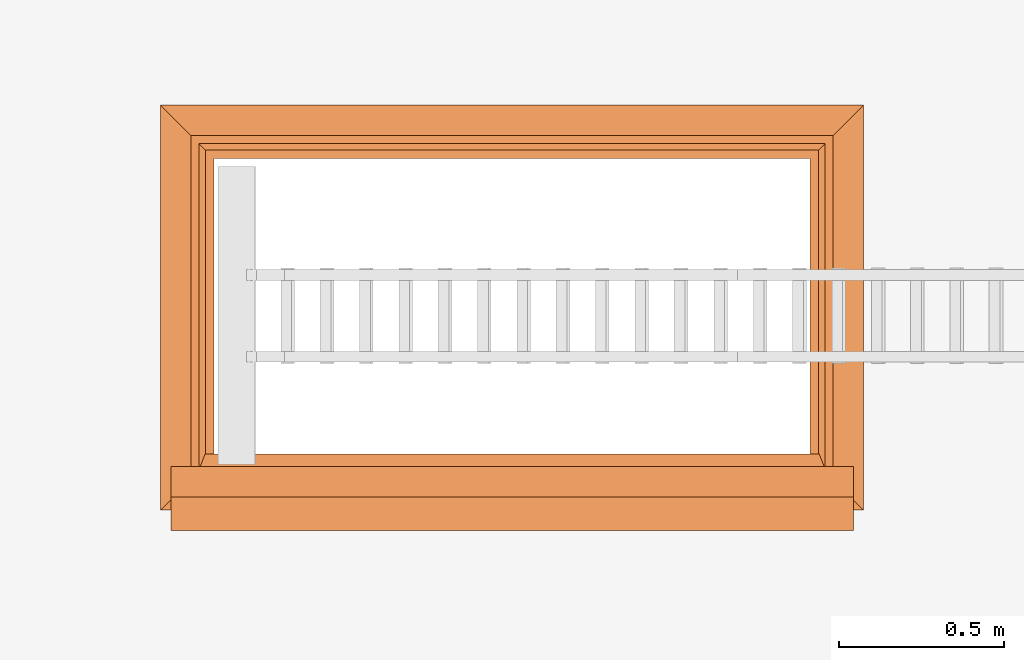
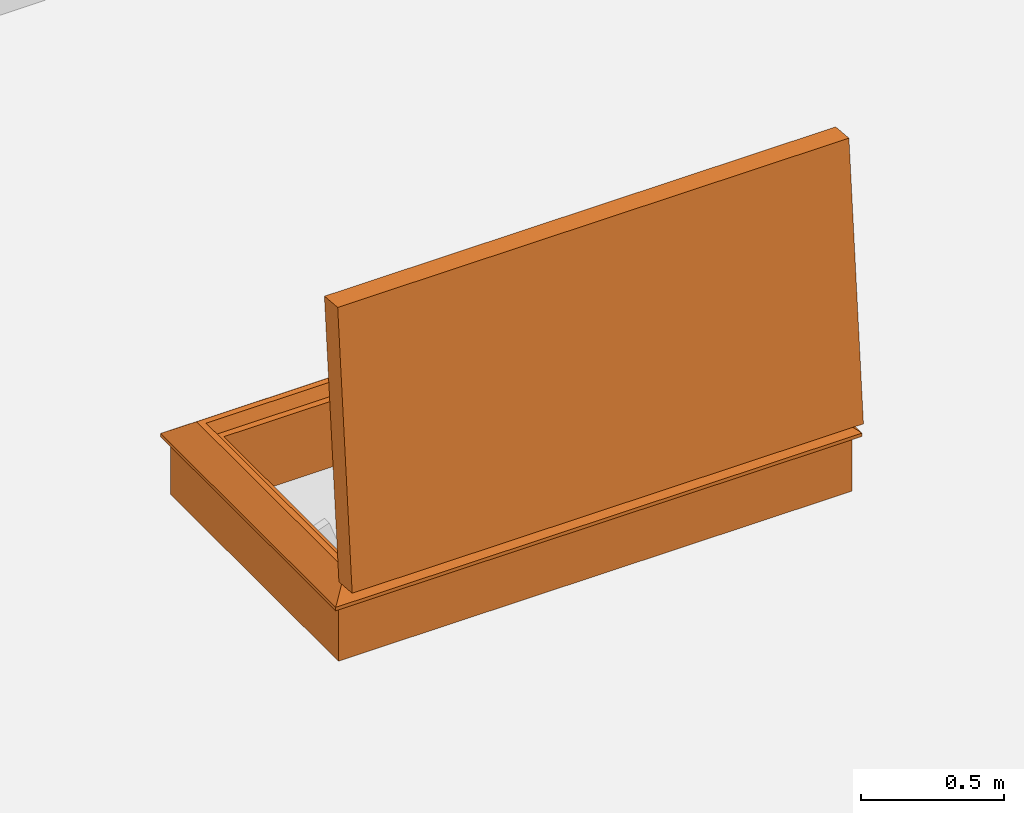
# One storey, part 19 of 28: 1 proxy.
"""IFC2X3 building model written with IfcOpenShell, lengths in millimetres."""

from ifc_helpers import new_model, entity, si_unit, converted_unit, derived_unit, direction, frame, origin, place, context, subcontext, project, spatial, faceted_brep, source, transform, mapped, type_object, type_shapes, element, save


model = new_model("IFC2X3")

# Units and contexts
model_context = context("Model", 3, precision=0.01, world=origin(), true_north=direction((6.12303176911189e-17, 1.0)))
body_context = subcontext(model_context, "Body", "Model", "MODEL_VIEW")
ifc_project = project(units=[si_unit("LENGTHUNIT", "METRE", prefix="MILLI"), si_unit("AREAUNIT", "SQUARE_METRE"), si_unit("VOLUMEUNIT", "CUBIC_METRE"), converted_unit("PLANEANGLEUNIT", "DEGREE", entity("IfcRatioMeasure", 0.0174532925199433), si_unit("PLANEANGLEUNIT", "RADIAN"), dimensions=[0, 0, 0, 0, 0, 0, 0]), si_unit("MASSUNIT", "GRAM", prefix="KILO"), derived_unit("MASSDENSITYUNIT", [(si_unit("MASSUNIT", "GRAM", prefix="KILO"), 1), (si_unit("LENGTHUNIT", "METRE"), -3)]), si_unit("TIMEUNIT", "SECOND"), si_unit("FREQUENCYUNIT", "HERTZ"), si_unit("THERMODYNAMICTEMPERATUREUNIT", "DEGREE_CELSIUS"), derived_unit("THERMALTRANSMITTANCEUNIT", [(si_unit("MASSUNIT", "GRAM", prefix="KILO"), 1), (si_unit("THERMODYNAMICTEMPERATUREUNIT", "KELVIN"), -1), (si_unit("TIMEUNIT", "SECOND"), -3)]), derived_unit("VOLUMETRICFLOWRATEUNIT", [(si_unit("LENGTHUNIT", "METRE"), 3), (si_unit("TIMEUNIT", "SECOND"), -1)]), si_unit("ELECTRICCURRENTUNIT", "AMPERE"), si_unit("ELECTRICVOLTAGEUNIT", "VOLT"), si_unit("POWERUNIT", "WATT"), si_unit("FORCEUNIT", "NEWTON", prefix="KILO"), si_unit("ILLUMINANCEUNIT", "LUX"), si_unit("LUMINOUSFLUXUNIT", "LUMEN"), si_unit("LUMINOUSINTENSITYUNIT", "CANDELA"), derived_unit("USERDEFINED", [(si_unit("MASSUNIT", "GRAM", prefix="KILO"), -1), (si_unit("LENGTHUNIT", "METRE"), -2), (si_unit("TIMEUNIT", "SECOND"), 3), (si_unit("LUMINOUSFLUXUNIT", "LUMEN"), 1)]), derived_unit("LINEARVELOCITYUNIT", [(si_unit("LENGTHUNIT", "METRE"), 1), (si_unit("TIMEUNIT", "SECOND"), -1)]), si_unit("PRESSUREUNIT", "PASCAL"), derived_unit("USERDEFINED", [(si_unit("LENGTHUNIT", "METRE"), -2), (si_unit("MASSUNIT", "GRAM", prefix="KILO"), 1), (si_unit("TIMEUNIT", "SECOND"), -2)])], contexts=[model_context])

# Site, building, storey
site_placement = place(None, origin())
site = spatial("IfcSite", under=ifc_project, at=site_placement, Name="Default", CompositionType="ELEMENT")
building_placement = place(site_placement, origin())
building = spatial("IfcBuilding", under=site, at=building_placement, CompositionType="ELEMENT")
storey_placement = place(building_placement, frame((0.0, 0.0, 4000.0)))
storey = spatial("IfcBuildingStorey", under=building, at=storey_placement, Name="Level 2", CompositionType="ELEMENT", Elevation=4000.0)

# Proxy
building_element_proxy_type = type_object("IfcBuildingElementProxyType", Name="1800 x 900 3part Stair", PredefinedType="NOTDEFINED")
shared_shape = source(origin(), body_context, "Body", "Brep", [
    faceted_brep([(-1631.26976233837, -341.462693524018, 337.452052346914), (-1631.26976233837, -341.488441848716, 335.779315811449), (-1631.26976233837, -341.532578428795, 334.060847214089), (-1631.26976233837, -341.190557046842, 332.37617996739), (-1631.26976233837, -340.479768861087, 330.81097630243), (-1631.26976233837, -339.436356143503, 329.444823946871), (-1631.26976233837, -338.113374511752, 328.347189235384), (-1631.26976233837, -336.578095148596, 327.573884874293), (-1631.26976233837, -302.711611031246, 315.073034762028), (-1631.26976233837, -349.563739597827, 277.591331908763), (-1631.26976233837, -356.620505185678, 286.412288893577), (-1631.26976233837, -357.994045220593, 289.380489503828), (-1631.26976233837, -358.771185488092, 292.557418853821), (-1631.26976233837, -358.922919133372, 295.824497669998), (-1631.26976233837, -354.679485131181, 338.870295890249), (-1631.26976233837, -353.959431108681, 340.38033982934), (-1631.26976233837, -352.892612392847, 341.668985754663), (-1631.26976233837, -351.543548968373, 342.658297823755), (-1631.26976233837, -349.993830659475, 343.288443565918), (-1631.26976233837, -348.337182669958, 343.521312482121), (-1631.26976233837, -346.673797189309, 343.342820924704), (-1631.26976233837, -345.104273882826, 342.763763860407), (-1631.26976233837, -343.723535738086, 341.819162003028), (-1631.26976233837, -342.615088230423, 340.566143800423), (-1631.26976233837, -341.845969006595, 339.080490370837), (-1594.51295834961, -302.711611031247, 315.073034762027), (-1594.51295834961, -349.563739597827, 277.591331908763), (-1594.51295834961, -356.620505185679, 286.412288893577), (-1594.51295834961, -357.994045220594, 289.380489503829), (-1594.51295834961, -358.771185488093, 292.557418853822), (-1594.51295834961, -358.922919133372, 295.824497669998), (-1594.51295834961, -354.679485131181, 338.870295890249), (-1594.51295834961, -353.959431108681, 340.380339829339), (-1594.51295834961, -352.892612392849, 341.668985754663), (-1594.51295834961, -351.543548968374, 342.658297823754), (-1594.51295834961, -349.993830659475, 343.288443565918), (-1594.51295834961, -348.337182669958, 343.52131248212), (-1594.51295834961, -346.673797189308, 343.342820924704), (-1594.51295834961, -343.723535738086, 341.819162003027), (-1594.51295834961, -345.104273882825, 342.763763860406), (-1594.51295834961, -342.615088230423, 340.566143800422), (-1594.51295834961, -341.845969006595, 339.080490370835), (-1594.51295834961, -341.462693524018, 337.452052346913), (-1594.51295834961, -341.488441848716, 335.779315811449), (-1594.51295834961, -341.532578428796, 334.060847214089), (-1594.51295834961, -341.190557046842, 332.376179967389), (-1594.51295834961, -340.479768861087, 330.810976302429), (-1594.51295834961, -338.113374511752, 328.347189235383), (-1594.51295834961, -336.578095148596, 327.573884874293), (-1594.51295834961, -339.436356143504, 329.44482394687)], [[[0, 1, 2, 3, 4, 5, 6, 7, 8, 9, 10, 11, 12, 13, 14, 15, 16, 17, 18, 19, 20, 21, 22, 23, 24]], [[9, 8, 25, 26]], [[10, 9, 26, 27]], [[27, 28, 11, 10]], [[28, 29, 12, 11]], [[29, 30, 13, 12]], [[14, 13, 30, 31]], [[15, 14, 31, 32]], [[33, 16, 15, 32]], [[18, 17, 34, 35]], [[17, 16, 33, 34]], [[36, 19, 18, 35]], [[20, 19, 36, 37]], [[38, 22, 21, 39]], [[40, 23, 22, 38]], [[0, 24, 41, 42]], [[40, 41, 24, 23]], [[1, 0, 42, 43]], [[39, 21, 20, 37]], [[44, 45, 3, 2]], [[43, 44, 2, 1]], [[46, 4, 3, 45]], [[47, 48, 7, 6]], [[49, 47, 6, 5]], [[49, 5, 4, 46]], [[8, 7, 48, 25]], [[26, 25, 48, 47, 49, 46, 45, 44, 43, 42, 41, 40, 38, 39, 37, 36, 35, 34, 33, 32, 31, 30, 29, 28, 27]]]),
    faceted_brep([(133.458717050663, -341.532578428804, 334.060847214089), (133.458717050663, -341.488441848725, 335.779315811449), (168.730237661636, -341.488441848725, 335.779315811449), (168.730237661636, -341.532578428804, 334.060847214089), (133.458717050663, -341.19055704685, 332.37617996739), (168.730237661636, -341.190557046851, 332.37617996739), (168.730237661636, -340.479768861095, 330.81097630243), (133.458717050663, -340.479768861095, 330.81097630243), (133.458717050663, -338.113374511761, 328.347189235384), (133.458717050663, -339.436356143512, 329.44482394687), (168.730237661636, -339.436356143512, 329.44482394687), (168.730237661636, -338.113374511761, 328.347189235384), (133.458717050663, -336.578095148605, 327.573884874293), (168.730237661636, -336.578095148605, 327.573884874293), (133.458717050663, -302.711611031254, 315.073034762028), (168.730237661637, -302.711611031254, 315.073034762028), (133.458717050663, -349.563739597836, 277.591331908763), (168.730237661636, -349.563739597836, 277.591331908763), (133.458717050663, -356.620505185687, 286.412288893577), (168.730237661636, -356.620505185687, 286.412288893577), (168.730237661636, -357.994045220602, 289.380489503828), (133.458717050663, -357.994045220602, 289.380489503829), (168.730237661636, -358.771185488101, 292.557418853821), (133.458717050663, -358.771185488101, 292.557418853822), (168.730237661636, -358.922919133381, 295.824497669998), (133.458717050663, -358.922919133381, 295.824497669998), (133.458717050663, -354.679485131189, 338.870295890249), (168.730237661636, -354.679485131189, 338.870295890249), (168.730237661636, -353.959431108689, 340.38033982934), (133.458717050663, -353.959431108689, 340.38033982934), (168.730237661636, -352.892612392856, 341.668985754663), (133.458717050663, -352.892612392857, 341.668985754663), (133.458717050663, -349.993830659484, 343.288443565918), (133.458717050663, -351.543548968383, 342.658297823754), (168.730237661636, -351.543548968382, 342.658297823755), (168.730237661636, -349.993830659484, 343.288443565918), (133.458717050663, -348.337182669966, 343.521312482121), (168.730237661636, -348.337182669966, 343.521312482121), (133.458717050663, -346.673797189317, 343.342820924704), (168.730237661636, -346.673797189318, 343.342820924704), (168.730237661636, -345.104273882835, 342.763763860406), (133.458717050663, -345.104273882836, 342.763763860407), (168.730237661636, -343.723535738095, 341.819162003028), (133.458717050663, -343.723535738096, 341.819162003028), (133.458717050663, -341.845969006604, 339.080490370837), (133.458717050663, -342.615088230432, 340.566143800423), (168.730237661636, -342.615088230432, 340.566143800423), (168.730237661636, -341.845969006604, 339.080490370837), (133.458717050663, -341.462693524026, 337.452052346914), (168.730237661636, -341.462693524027, 337.452052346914)], [[[0, 1, 2, 3]], [[4, 0, 3, 5]], [[6, 7, 4, 5]], [[8, 9, 10, 11]], [[12, 8, 11, 13]], [[10, 9, 7, 6]], [[14, 12, 13, 15]], [[16, 14, 15, 17]], [[18, 16, 17, 19]], [[19, 20, 21, 18]], [[20, 22, 23, 21]], [[22, 24, 25, 23]], [[26, 25, 24, 27]], [[28, 29, 26, 27]], [[30, 31, 29, 28]], [[32, 33, 34, 35]], [[30, 34, 33, 31]], [[36, 32, 35, 37]], [[38, 36, 37, 39]], [[40, 41, 38, 39]], [[42, 43, 41, 40]], [[44, 45, 46, 47]], [[42, 46, 45, 43]], [[48, 44, 47, 49]], [[1, 48, 49, 2]], [[19, 17, 15, 13, 11, 10, 6, 5, 3, 2, 49, 47, 46, 42, 40, 39, 37, 35, 34, 30, 28, 27, 24, 22, 20]], [[26, 29, 31, 33, 32, 36, 38, 41, 43, 45, 44, 48, 1, 0, 4, 7, 9, 8, 12, 14, 16, 18, 21, 23, 25]]]),
    faceted_brep([(238.730237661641, 753.447095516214, 328.0), (330.730237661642, 845.447095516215, 254.4), (-1793.26976233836, 845.447095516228, 254.4), (-1701.26976233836, 753.447095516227, 328.0), (194.730237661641, 709.447095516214, 282.0), (214.256079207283, 728.972937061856, 328.0), (-1676.795603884, 728.972937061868, 328.0), (-1657.26976233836, 709.447095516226, 282.0), (168.73023766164, 683.447095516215, 0.0), (168.73023766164, 683.447095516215, 282.0), (-1631.26976233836, 683.447095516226, 282.0), (-1631.26976233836, 683.447095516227, 0.0), (304.73023766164, 819.447095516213, 240.0), (304.730237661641, 819.447095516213, 0.0), (-1767.26976233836, 819.447095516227, 0.0), (-1767.26976233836, 819.447095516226, 240.0), (330.730237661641, 845.447095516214, 240.0), (-1793.26976233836, 845.447095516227, 240.0), (-1793.26976233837, -378.552904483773, 254.4), (-1701.26976233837, -286.552904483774, 328.0), (-1676.79560388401, -262.078746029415, 328.0), (-1657.26976233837, -242.552904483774, 282.0), (-1631.26976233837, -216.552904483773, 282.0), (-1631.26976233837, -216.552904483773, 0.0), (-1767.26976233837, -352.552904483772, 0.0), (-1767.26976233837, -352.552904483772, 240.0), (-1793.26976233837, -378.552904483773, 240.0), (330.730237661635, -378.552904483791, 254.4), (238.730237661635, -286.552904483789, 328.0), (214.256079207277, -262.078746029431, 328.0), (194.730237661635, -242.552904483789, 282.0), (168.730237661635, -216.552904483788, 282.0), (168.730237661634, -216.552904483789, 0.0), (304.730237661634, -352.552904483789, 0.0), (304.730237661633, -352.552904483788, 240.0), (330.730237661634, -378.552904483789, 240.0)], [[[0, 1, 2, 3]], [[4, 5, 6, 7]], [[8, 9, 10, 11]], [[12, 13, 14, 15]], [[1, 16, 17, 2]], [[3, 2, 18, 19]], [[7, 6, 20, 21]], [[11, 10, 22, 23]], [[15, 14, 24, 25]], [[2, 17, 26, 18]], [[19, 18, 27, 28]], [[21, 20, 29, 30]], [[23, 22, 31, 32]], [[25, 24, 33, 34]], [[18, 26, 35, 27]], [[28, 27, 1, 0]], [[3, 19, 28, 0], [5, 29, 20, 6]], [[30, 29, 5, 4]], [[7, 21, 30, 4], [9, 31, 22, 10]], [[32, 31, 9, 8]], [[11, 23, 32, 8], [13, 33, 24, 14]], [[34, 33, 13, 12]], [[15, 25, 34, 12], [16, 35, 26, 17]], [[27, 35, 16, 1]]], outer=[[True], [True], [True], [True], [True], [True], [True], [True], [True], [True], [True], [True], [True], [True], [True], [True], [True, False], [True], [True, False], [True], [False, True], [True], [False, True], [True]]),
    faceted_brep([(-1633.27259076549, -350.029551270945, 1370.57460720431), (-1633.27259076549, -428.818342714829, 470.014600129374), (171.727409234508, -428.81834271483, 470.014600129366), (171.727409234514, -350.029551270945, 1370.5746072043), (-1633.27259076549, -211.160010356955, 1358.42509666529), (171.727409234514, -211.160010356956, 1358.42509666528), (171.727409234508, -289.94880180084, 457.865089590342), (-1633.27259076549, -289.948801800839, 457.86508959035)], [[[0, 1, 2, 3]], [[4, 5, 6, 7]], [[1, 0, 4, 7]], [[2, 1, 7, 6]], [[3, 2, 6, 5]], [[0, 3, 5, 4]]]),
    faceted_brep([(171.727409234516, -211.16001035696, 1358.42509666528), (171.727409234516, -350.02955127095, 1370.57460720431), (-1633.27259076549, -350.029551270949, 1370.57460720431), (-1633.27259076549, -211.16001035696, 1358.42509666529), (214.727409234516, -253.635747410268, 1405.30549514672), (197.127409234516, -208.94625449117, 1383.72844199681), (-1658.67259076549, -208.946254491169, 1383.72844199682), (-1676.27259076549, -253.635747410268, 1405.30549514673), (300.727409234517, -338.786460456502, 1499.08372325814), (300.727409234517, -246.14035353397, 1490.97823918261), (-1762.27259076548, -246.140353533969, 1490.97823918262), (-1762.27259076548, -338.786460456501, 1499.08372325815), (-1633.27259076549, -428.818342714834, 470.014600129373), (-1633.27259076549, -289.948801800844, 457.865089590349), (-1658.67259076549, -292.162557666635, 432.561744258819), (-1676.27259076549, -339.919932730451, 419.072744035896), (-1762.27259076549, -347.41532660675, 333.400000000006), (-1762.27259076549, -440.061433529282, 341.505484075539), (171.72740923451, -428.818342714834, 470.014600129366), (171.72740923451, -289.948801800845, 457.865089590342), (197.12740923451, -292.162557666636, 432.561744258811), (214.72740923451, -339.919932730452, 419.072744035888), (300.727409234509, -347.415326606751, 333.399999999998), (300.727409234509, -440.061433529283, 341.50548407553)], [[[0, 1, 2, 3]], [[4, 5, 6, 7]], [[8, 9, 10, 11]], [[3, 2, 12, 13]], [[7, 6, 14, 15]], [[11, 10, 16, 17]], [[13, 12, 18, 19]], [[15, 14, 20, 21]], [[17, 16, 22, 23]], [[19, 18, 1, 0]], [[3, 13, 19, 0], [5, 20, 14, 6]], [[21, 20, 5, 4]], [[7, 15, 21, 4], [9, 22, 16, 10]], [[23, 22, 9, 8]], [[1, 18, 12, 2], [11, 17, 23, 8]]], outer=[[True], [True], [True], [True], [True], [True], [True], [True], [True], [True], [False, True], [True], [False, True], [True], [False, True]]),
])
type_shapes(building_element_proxy_type, [shared_shape])
proxy_placement = place(storey_placement, frame((-11350.7704168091, 9497.08989573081, 400.0)))
element("IfcBuildingElementProxy", 1, at=proxy_placement, inside=storey, type_object=building_element_proxy_type, Name="4_Topaccess_dakluik_1800x900_Staka:1800 x 900 3part Stair", ObjectType="1800 x 900 3part Stair", context=body_context, shape_type="MappedRepresentation", body=[
    mapped(shared_shape, transform((0.0, 0.0, 0.0), scale=1.0)),
])

save(model, "model.ifc")
